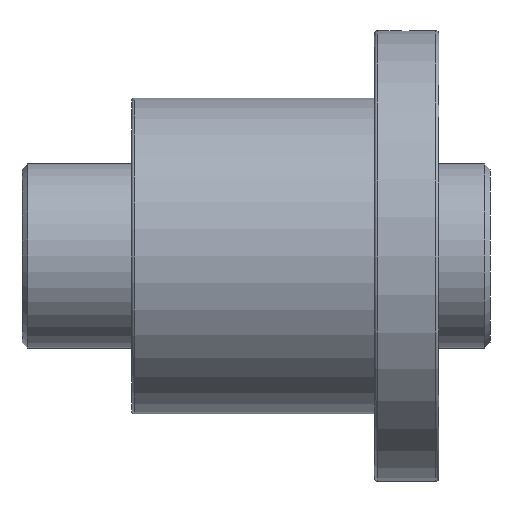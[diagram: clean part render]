
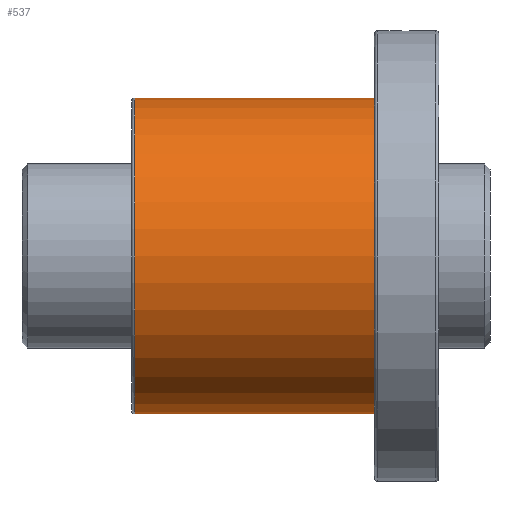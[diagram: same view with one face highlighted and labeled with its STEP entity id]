
A CAD part, front view. The second image highlights one B-rep face of the part: STEP entity #537.
In plain terms, the highlighted cylindrical face has radius 54 mm (diameter 108 mm), a full revolution.
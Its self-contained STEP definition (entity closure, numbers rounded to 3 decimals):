
#138=ORIENTED_EDGE('',*,*,#219,.T.);
#139=ORIENTED_EDGE('',*,*,#220,.F.);
#219=EDGE_CURVE('',#271,#271,#314,.T.);
#220=EDGE_CURVE('',#272,#272,#315,.T.);
#271=VERTEX_POINT('',#940);
#272=VERTEX_POINT('',#943);
#314=CIRCLE('',#634,54.);
#315=CIRCLE('',#636,54.);
#379=EDGE_LOOP('',(#138));
#380=EDGE_LOOP('',(#139));
#464=FACE_BOUND('',#379,.T.);
#465=FACE_BOUND('',#380,.T.);
#507=CYLINDRICAL_SURFACE('',#635,54.);
#537=ADVANCED_FACE('',(#464,#465),#507,.T.);
#634=AXIS2_PLACEMENT_3D('',#939,#773,#774);
#635=AXIS2_PLACEMENT_3D('',#941,#775,#776);
#636=AXIS2_PLACEMENT_3D('',#942,#777,#778);
#773=DIRECTION('',(1.,0.,0.));
#774=DIRECTION('',(0.,0.,-1.));
#775=DIRECTION('',(1.,0.,0.));
#776=DIRECTION('',(0.,0.,-1.));
#777=DIRECTION('',(1.,0.,0.));
#778=DIRECTION('',(0.,0.,-1.));
#939=CARTESIAN_POINT('',(-121.5,0.,0.));
#940=CARTESIAN_POINT('',(-121.5,0.,-54.));
#941=CARTESIAN_POINT('',(-140.,0.,0.));
#942=CARTESIAN_POINT('',(-39.5,0.,0.));
#943=CARTESIAN_POINT('',(-39.5,0.,-54.));
